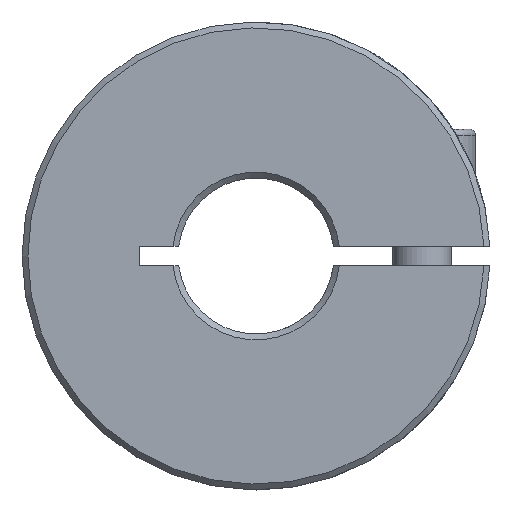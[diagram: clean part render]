
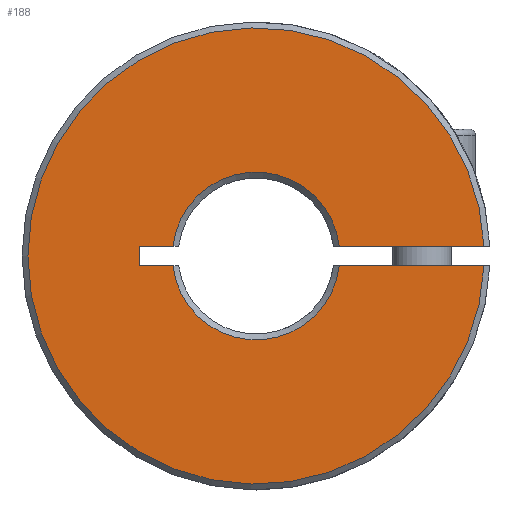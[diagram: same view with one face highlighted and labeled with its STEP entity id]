
A CAD part, front view. The second image highlights one B-rep face of the part: STEP entity #188.
In plain terms, the highlighted planar face has unit normal (0, -1, 0).
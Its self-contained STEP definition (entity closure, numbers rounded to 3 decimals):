
#188 = ADVANCED_FACE( '', ( #378 ), #379, .F. );
#378 = FACE_OUTER_BOUND( '', #615, .T. );
#379 = PLANE( '', #616 );
#615 = EDGE_LOOP( '', ( #919, #920, #921, #922, #923, #924, #925, #926 ) );
#616 = AXIS2_PLACEMENT_3D( '', #927, #928, #929 );
#919 = ORIENTED_EDGE( '', *, *, #1360, .T. );
#920 = ORIENTED_EDGE( '', *, *, #1361, .T. );
#921 = ORIENTED_EDGE( '', *, *, #1304, .T. );
#922 = ORIENTED_EDGE( '', *, *, #1362, .T. );
#923 = ORIENTED_EDGE( '', *, *, #1325, .T. );
#924 = ORIENTED_EDGE( '', *, *, #1341, .T. );
#925 = ORIENTED_EDGE( '', *, *, #1363, .T. );
#926 = ORIENTED_EDGE( '', *, *, #1364, .T. );
#927 = CARTESIAN_POINT( '', ( 0., 0., 0. ) );
#928 = DIRECTION( '', ( 0., 1., 0. ) );
#929 = DIRECTION( '', ( 0., 0., 1. ) );
#1304 = EDGE_CURVE( '', #1511, #1509, #1512, .T. );
#1325 = EDGE_CURVE( '', #1547, #1545, #1548, .T. );
#1341 = EDGE_CURVE( '', #1545, #1572, #1574, .T. );
#1360 = EDGE_CURVE( '', #1602, #1603, #1604, .T. );
#1361 = EDGE_CURVE( '', #1603, #1511, #1605, .T. );
#1362 = EDGE_CURVE( '', #1509, #1547, #1606, .T. );
#1363 = EDGE_CURVE( '', #1572, #1607, #1608, .T. );
#1364 = EDGE_CURVE( '', #1607, #1602, #1609, .F. );
#1509 = VERTEX_POINT( '', #1807 );
#1511 = VERTEX_POINT( '', #1810 );
#1512 = LINE( '', #1811, #1812 );
#1545 = VERTEX_POINT( '', #1895 );
#1547 = VERTEX_POINT( '', #1900 );
#1548 = LINE( '', #1901, #1902 );
#1572 = VERTEX_POINT( '', #1930 );
#1574 = CIRCLE( '', #1935, 4.3 );
#1602 = VERTEX_POINT( '', #2042 );
#1603 = VERTEX_POINT( '', #2043 );
#1604 = LINE( '', #2044, #2045 );
#1605 = CIRCLE( '', #2046, 4.3 );
#1606 = LINE( '', #2047, #2048 );
#1607 = VERTEX_POINT( '', #2049 );
#1608 = LINE( '', #2050, #2051 );
#1609 = CIRCLE( '', #2052, 11.7 );
#1807 = CARTESIAN_POINT( '', ( -6., 0., -0.5 ) );
#1810 = CARTESIAN_POINT( '', ( -4.271, 0., -0.5 ) );
#1811 = CARTESIAN_POINT( '', ( 0., 0., -0.5 ) );
#1812 = VECTOR( '', #2588, 1000. );
#1895 = CARTESIAN_POINT( '', ( -4.271, 0., 0.5 ) );
#1900 = CARTESIAN_POINT( '', ( -6., 0., 0.5 ) );
#1901 = CARTESIAN_POINT( '', ( 0., 0., 0.5 ) );
#1902 = VECTOR( '', #2612, 1000. );
#1930 = CARTESIAN_POINT( '', ( 4.271, 0., 0.5 ) );
#1935 = AXIS2_PLACEMENT_3D( '', #2638, #2639, #2640 );
#2042 = CARTESIAN_POINT( '', ( 11.689, 0., -0.5 ) );
#2043 = CARTESIAN_POINT( '', ( 4.271, 0., -0.5 ) );
#2044 = CARTESIAN_POINT( '', ( 0., 0., -0.5 ) );
#2045 = VECTOR( '', #2661, 1000. );
#2046 = AXIS2_PLACEMENT_3D( '', #2662, #2663, #2664 );
#2047 = CARTESIAN_POINT( '', ( -6., 0., 0. ) );
#2048 = VECTOR( '', #2665, 1000. );
#2049 = CARTESIAN_POINT( '', ( 11.689, 0., 0.5 ) );
#2050 = CARTESIAN_POINT( '', ( 0., 0., 0.5 ) );
#2051 = VECTOR( '', #2666, 1000. );
#2052 = AXIS2_PLACEMENT_3D( '', #2667, #2668, #2669 );
#2588 = DIRECTION( '', ( -1., 0., 0. ) );
#2612 = DIRECTION( '', ( 1., 0., 0. ) );
#2638 = CARTESIAN_POINT( '', ( 0., 0., 0. ) );
#2639 = DIRECTION( '', ( 0., 1., 0. ) );
#2640 = DIRECTION( '', ( 0., 0., 1. ) );
#2661 = DIRECTION( '', ( -1., 0., 0. ) );
#2662 = CARTESIAN_POINT( '', ( 0., 0., 0. ) );
#2663 = DIRECTION( '', ( 0., 1., 0. ) );
#2664 = DIRECTION( '', ( 0., 0., 1. ) );
#2665 = DIRECTION( '', ( 0., 0., 1. ) );
#2666 = DIRECTION( '', ( 1., 0., 0. ) );
#2667 = CARTESIAN_POINT( '', ( 0., 0., 0. ) );
#2668 = DIRECTION( '', ( 0., 1., 0. ) );
#2669 = DIRECTION( '', ( 0., 0., 1. ) );
